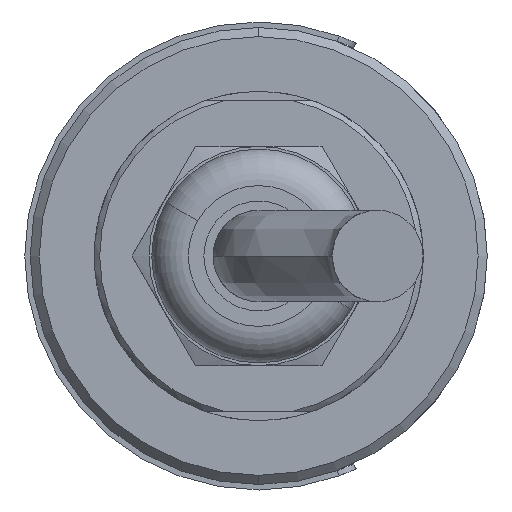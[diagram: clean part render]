
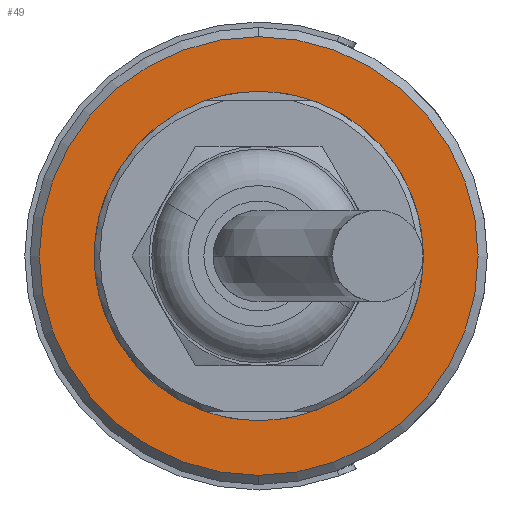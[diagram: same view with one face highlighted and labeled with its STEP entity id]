
A CAD part, left-side view. The second image highlights one B-rep face of the part: STEP entity #49.
In plain terms, the highlighted planar face has unit normal (-1, 0, 0).
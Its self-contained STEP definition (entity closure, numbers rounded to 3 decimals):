
#13 = CIRCLE ( 'NONE', #3667, 12. ) ;
#15 = ORIENTED_EDGE ( 'NONE', *, *, #1466, .T. ) ;
#49 = ADVANCED_FACE ( 'NONE', ( #2602, #4723 ), #3920, .T. ) ;
#194 = VERTEX_POINT ( 'NONE', #4060 ) ;
#234 = CARTESIAN_POINT ( 'NONE',  ( -31.9, 0., 0. ) ) ;
#504 = DIRECTION ( 'NONE',  ( 0., 0., -1. ) ) ;
#540 = EDGE_CURVE ( 'NONE', #194, #5113, #4160, .T. ) ;
#674 = DIRECTION ( 'NONE',  ( 1., 0., 0. ) ) ;
#997 = CARTESIAN_POINT ( 'NONE',  ( -31.9, 0., 0. ) ) ;
#1014 = CIRCLE ( 'NONE', #4050, 12. ) ;
#1106 = DIRECTION ( 'NONE',  ( 0., 0., -1. ) ) ;
#1310 = CARTESIAN_POINT ( 'NONE',  ( -31.9, 0., -12. ) ) ;
#1466 = EDGE_CURVE ( 'NONE', #5113, #194, #2800, .T. ) ;
#1528 = EDGE_CURVE ( 'NONE', #4297, #2281, #13, .T. ) ;
#1722 = AXIS2_PLACEMENT_3D ( 'NONE', #2286, #674, #1872 ) ;
#1815 = ORIENTED_EDGE ( 'NONE', *, *, #540, .T. ) ;
#1872 = DIRECTION ( 'NONE',  ( 0., 0., 1. ) ) ;
#1888 = DIRECTION ( 'NONE',  ( 0., 0., 1. ) ) ;
#2281 = VERTEX_POINT ( 'NONE', #4656 ) ;
#2286 = CARTESIAN_POINT ( 'NONE',  ( -31.9, 0., 0. ) ) ;
#2327 = DIRECTION ( 'NONE',  ( 1., 0., 0. ) ) ;
#2358 = CARTESIAN_POINT ( 'NONE',  ( -31.9, 0., 0. ) ) ;
#2602 = FACE_OUTER_BOUND ( 'NONE', #3930, .T. ) ;
#2662 = DIRECTION ( 'NONE',  ( -1., 0., 0. ) ) ;
#2708 = DIRECTION ( 'NONE',  ( -1., 0., 0. ) ) ;
#2800 = CIRCLE ( 'NONE', #5138, 9. ) ;
#3667 = AXIS2_PLACEMENT_3D ( 'NONE', #2358, #4836, #1106 ) ;
#3843 = DIRECTION ( 'NONE',  ( 0., 0., -1. ) ) ;
#3890 = CARTESIAN_POINT ( 'NONE',  ( -31.9, 0., 9. ) ) ;
#3920 = PLANE ( 'NONE',  #4179 ) ;
#3930 = EDGE_LOOP ( 'NONE', ( #4851, #4680 ) ) ;
#4050 = AXIS2_PLACEMENT_3D ( 'NONE', #997, #2662, #504 ) ;
#4060 = CARTESIAN_POINT ( 'NONE',  ( -31.9, 0., -9. ) ) ;
#4125 = CARTESIAN_POINT ( 'NONE',  ( -31.9, 0., 9. ) ) ;
#4160 = CIRCLE ( 'NONE', #1722, 9. ) ;
#4179 = AXIS2_PLACEMENT_3D ( 'NONE', #3890, #2708, #3843 ) ;
#4297 = VERTEX_POINT ( 'NONE', #1310 ) ;
#4656 = CARTESIAN_POINT ( 'NONE',  ( -31.9, 0., 12. ) ) ;
#4680 = ORIENTED_EDGE ( 'NONE', *, *, #1528, .T. ) ;
#4723 = FACE_BOUND ( 'NONE', #4941, .T. ) ;
#4836 = DIRECTION ( 'NONE',  ( -1., 0., 0. ) ) ;
#4851 = ORIENTED_EDGE ( 'NONE', *, *, #5147, .T. ) ;
#4941 = EDGE_LOOP ( 'NONE', ( #15, #1815 ) ) ;
#5113 = VERTEX_POINT ( 'NONE', #4125 ) ;
#5138 = AXIS2_PLACEMENT_3D ( 'NONE', #234, #2327, #1888 ) ;
#5147 = EDGE_CURVE ( 'NONE', #2281, #4297, #1014, .T. ) ;
